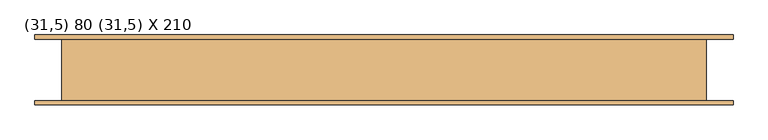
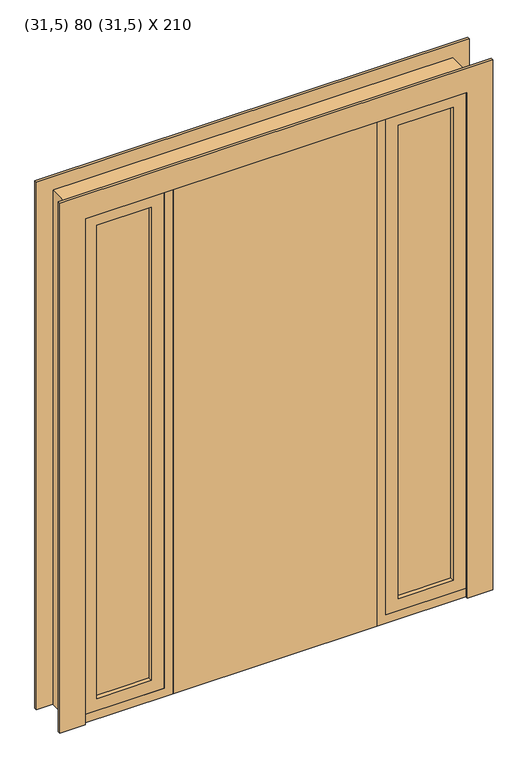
"""IFC4 building model written with IfcOpenShell, lengths in millimetres: door geometry, PORTA DE ABRIR - 1 FOLHA + LUZES LATERAIS - 2 FOLHAS : (31,5) 80 (31,5) X 210."""

from ifc_helpers import new_model, si_unit, frame, origin, origin_with_axes, place, context, project, spatial, polyline, outline, extrude, faceted_brep, source, transform, mapped, element, save


def door_31_5_80_31_5_x_210_066ea2de(model_context):
    return source(origin(), model_context, "Body", "SolidModel", [
        extrude(outline(polyline([(725.0, -52.0), (725.0, -58.0), (510.0, -58.0), (510.0, -52.0), (725.0, -52.0)])), frame((0.0, 0.0, 85.0), z_axis=(0.0, 0.0, 1.0), x_axis=(1.0, 0.0, 0.0)), (0.0, 0.0, 1.0), 1965.0),
        extrude(outline(polyline([(2100.0, 775.0), (2100.0, 460.0), (35.0, 460.0), (35.0, 775.0), (2100.0, 775.0)]), holes=[polyline([(2050.0, 725.0), (85.0, 725.0), (85.0, 510.0), (2050.0, 510.0), (2050.0, 725.0)])]), frame((0.0, -75.0, 0.0), z_axis=(0.0, 1.0, 0.0), x_axis=(0.0, 0.0, 1.0)), (0.0, 0.0, 1.0), 40.0),
        extrude(outline(polyline([(-460.0, -52.0), (-460.0, -58.0), (-675.0, -58.0), (-675.0, -52.0), (-460.0, -52.0)])), frame((0.0, 0.0, 85.0), z_axis=(0.0, 0.0, 1.0), x_axis=(1.0, 0.0, 0.0)), (0.0, 0.0, 1.0), 1965.0),
        extrude(outline(polyline([(2100.0, -410.0), (2100.0, -725.0), (35.0, -725.0), (35.0, -410.0), (2100.0, -410.0)]), holes=[polyline([(2050.0, -460.0), (85.0, -460.0), (85.0, -675.0), (2050.0, -675.0), (2050.0, -460.0)])]), frame((0.0, -75.0, 0.0), z_axis=(0.0, 1.0, 0.0), x_axis=(0.0, 0.0, 1.0)), (0.0, 0.0, 1.0), 40.0),
        extrude(outline(polyline([(425.0, -75.0), (-375.0, -75.0), (-375.0, -35.0), (425.0, -35.0), (425.0, -75.0)])), origin_with_axes(), (0.0, 0.0, 1.0), 2100.0),
        extrude(outline(polyline([(2090.0, 775.0), (0.0, 775.0), (0.0, 875.0), (2190.0, 875.0), (2190.0, -825.0), (0.0, -825.0), (0.0, -725.0), (2090.0, -725.0), (2090.0, 775.0)])), frame((0.0, 75.0, 0.0), z_axis=(0.0, 1.0, 0.0), x_axis=(0.0, 0.0, 1.0)), (0.0, 0.0, 1.0), 10.0),
        extrude(outline(polyline([(2100.0, -725.0), (2100.0, 775.0), (0.0, 775.0), (0.0, 875.0), (2200.0, 875.0), (2200.0, -825.0), (0.0, -825.0), (0.0, -725.0), (2100.0, -725.0)])), frame((0.0, -85.0, 0.0), z_axis=(0.0, 1.0, 0.0), x_axis=(0.0, 0.0, 1.0)), (0.0, 0.0, 1.0), 10.0),
        faceted_brep([(425.0, -75.0, 0.0), (425.0, -35.0, 0.0), (415.0, -35.0, 0.0), (415.0, 75.0, 0.0), (810.0, 75.0, 0.0), (810.0, -75.0, 0.0), (425.0, -75.0, 2100.0), (425.0, -35.0, 2100.0), (-375.0, -35.0, 2100.0), (-375.0, -35.0, 0.0), (-365.0, -35.0, 0.0), (-365.0, -35.0, 2090.0), (415.0, -35.0, 2090.0), (415.0, 75.0, 2090.0), (-365.0, 75.0, 2090.0), (-365.0, 75.0, 0.0), (-760.0, 75.0, 0.0), (-760.0, 75.0, 2135.0), (810.0, 75.0, 2135.0), (460.0, 75.0, 2100.0), (460.0, 75.0, 35.0), (775.0, 75.0, 35.0), (775.0, 75.0, 2100.0), (-410.0, 75.0, 35.0), (-410.0, 75.0, 2100.0), (-725.0, 75.0, 2100.0), (-725.0, 75.0, 35.0), (810.0, -75.0, 2135.0), (-760.0, -75.0, 2135.0), (-760.0, -75.0, 0.0), (-375.0, -75.0, 0.0), (-375.0, -75.0, 2100.0), (-410.0, -75.0, 2100.0), (-410.0, -75.0, 35.0), (-725.0, -75.0, 35.0), (-725.0, -75.0, 2100.0), (460.0, -75.0, 35.0), (460.0, -75.0, 2100.0), (775.0, -75.0, 2100.0), (775.0, -75.0, 35.0)], [[[0, 1, 2, 3, 4, 5]], [[1, 0, 6, 7]], [[2, 1, 7, 8, 9, 10, 11, 12]], [[3, 2, 12, 13]], [[4, 3, 13, 14, 15, 16, 17, 18], [19, 20, 21, 22], [23, 24, 25, 26]], [[4, 18, 27, 5]], [[0, 5, 27, 28, 29, 30, 31, 6], [32, 33, 34, 35], [36, 37, 38, 39]], [[20, 19, 37, 36]], [[21, 20, 36, 39]], [[33, 32, 24, 23]], [[23, 26, 34, 33]], [[26, 25, 35, 34]], [[22, 21, 39, 38]], [[17, 16, 29, 28]], [[30, 29, 16, 15, 10, 9]], [[31, 30, 9, 8]], [[11, 10, 15, 14]], [[28, 27, 18, 17]], [[6, 31, 8, 7]], [[12, 11, 14, 13]], [[35, 25, 24, 32]], [[22, 38, 37, 19]]]),
    ])


if __name__ == "__main__":
    model = new_model("IFC4")
    model_context = context("Model", 3, world=origin())
    ifc_project = project(units=[si_unit("LENGTHUNIT", "METRE", prefix="MILLI")], contexts=[model_context])
    site = spatial("IfcSite", under=ifc_project)
    building = spatial("IfcBuilding", under=site)
    placement = place(None, origin())
    door_31_5_80_31_5_x_210_shape = door_31_5_80_31_5_x_210_066ea2de(model_context)
    element("IfcDoor", 1, ObjectType="PORTA DE ABRIR - 1 FOLHA + LUZES LATERAIS - 2 FOLHAS : (31,5) 80 (31,5) X 210", at=placement, inside=building, context=model_context, shape_type="MappedRepresentation", body=[
        mapped(door_31_5_80_31_5_x_210_shape, transform((0.0, 0.0, 0.0), x_axis=(1.0, 0.0, 0.0), y_axis=(0.0, 1.0, 0.0), z_axis=(0.0, 0.0, 1.0))),
    ])
    save(model, "model.ifc")
